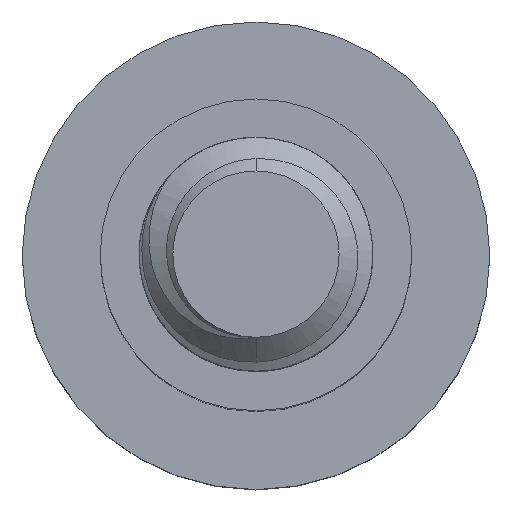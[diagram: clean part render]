
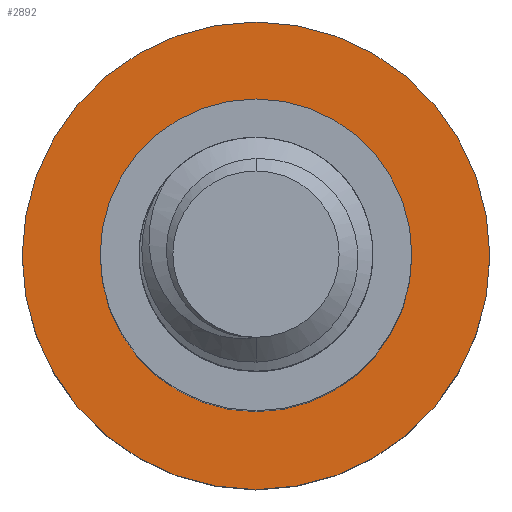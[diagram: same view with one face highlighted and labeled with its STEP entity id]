
A CAD part, top view. The second image highlights one B-rep face of the part: STEP entity #2892.
In plain terms, the highlighted planar face has unit normal (0, 0, 1).
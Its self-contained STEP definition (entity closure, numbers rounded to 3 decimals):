
#10 = DIRECTION ( 'NONE',  ( 0., 0., -1. ) ) ;
#22 = DIRECTION ( 'NONE',  ( 0., 0., -1. ) ) ;
#192 = DIRECTION ( 'NONE',  ( 0., 0., -1. ) ) ;
#247 = EDGE_CURVE ( 'NONE', #2875, #1247, #2076, .T. ) ;
#252 = CARTESIAN_POINT ( 'NONE',  ( -4., 0., -14. ) ) ;
#264 = AXIS2_PLACEMENT_3D ( 'NONE', #3711, #1436, #2420 ) ;
#343 = AXIS2_PLACEMENT_3D ( 'NONE', #1651, #10, #1326 ) ;
#437 = EDGE_CURVE ( 'NONE', #1247, #2875, #3794, .T. ) ;
#479 = CARTESIAN_POINT ( 'NONE',  ( -6., 0., -14. ) ) ;
#512 = ORIENTED_EDGE ( 'NONE', *, *, #2255, .F. ) ;
#517 = FACE_BOUND ( 'NONE', #3545, .T. ) ;
#558 = CARTESIAN_POINT ( 'NONE',  ( 0., 0., -14. ) ) ;
#619 = DIRECTION ( 'NONE',  ( 0., 0., -1. ) ) ;
#667 = CARTESIAN_POINT ( 'NONE',  ( 6., 0., -14. ) ) ;
#1200 = EDGE_CURVE ( 'NONE', #2032, #1502, #3448, .T. ) ;
#1247 = VERTEX_POINT ( 'NONE', #2469 ) ;
#1248 = DIRECTION ( 'NONE',  ( -1., 0., 0. ) ) ;
#1286 = DIRECTION ( 'NONE',  ( -1., 0., 0. ) ) ;
#1326 = DIRECTION ( 'NONE',  ( -1., 0., 0. ) ) ;
#1436 = DIRECTION ( 'NONE',  ( 0., 0., -1. ) ) ;
#1502 = VERTEX_POINT ( 'NONE', #479 ) ;
#1651 = CARTESIAN_POINT ( 'NONE',  ( 0., 0., -14. ) ) ;
#1686 = CARTESIAN_POINT ( 'NONE',  ( 0., 0., -14. ) ) ;
#1841 = PLANE ( 'NONE',  #1932 ) ;
#1922 = AXIS2_PLACEMENT_3D ( 'NONE', #1686, #22, #3679 ) ;
#1932 = AXIS2_PLACEMENT_3D ( 'NONE', #558, #192, #1248 ) ;
#1982 = ORIENTED_EDGE ( 'NONE', *, *, #437, .T. ) ;
#2032 = VERTEX_POINT ( 'NONE', #667 ) ;
#2076 = CIRCLE ( 'NONE', #264, 4. ) ;
#2226 = ORIENTED_EDGE ( 'NONE', *, *, #247, .T. ) ;
#2255 = EDGE_CURVE ( 'NONE', #1502, #2032, #2836, .T. ) ;
#2420 = DIRECTION ( 'NONE',  ( -1., 0., 0. ) ) ;
#2469 = CARTESIAN_POINT ( 'NONE',  ( 4., 0., -14. ) ) ;
#2836 = CIRCLE ( 'NONE', #343, 6. ) ;
#2875 = VERTEX_POINT ( 'NONE', #252 ) ;
#2892 = ADVANCED_FACE ( 'NONE', ( #517, #4160 ), #1841, .F. ) ;
#3448 = CIRCLE ( 'NONE', #3860, 6. ) ;
#3533 = EDGE_LOOP ( 'NONE', ( #3964, #512 ) ) ;
#3545 = EDGE_LOOP ( 'NONE', ( #2226, #1982 ) ) ;
#3576 = CARTESIAN_POINT ( 'NONE',  ( 0., 0., -14. ) ) ;
#3679 = DIRECTION ( 'NONE',  ( -1., 0., 0. ) ) ;
#3711 = CARTESIAN_POINT ( 'NONE',  ( 0., 0., -14. ) ) ;
#3794 = CIRCLE ( 'NONE', #1922, 4. ) ;
#3860 = AXIS2_PLACEMENT_3D ( 'NONE', #3576, #619, #1286 ) ;
#3964 = ORIENTED_EDGE ( 'NONE', *, *, #1200, .F. ) ;
#4160 = FACE_OUTER_BOUND ( 'NONE', #3533, .T. ) ;
